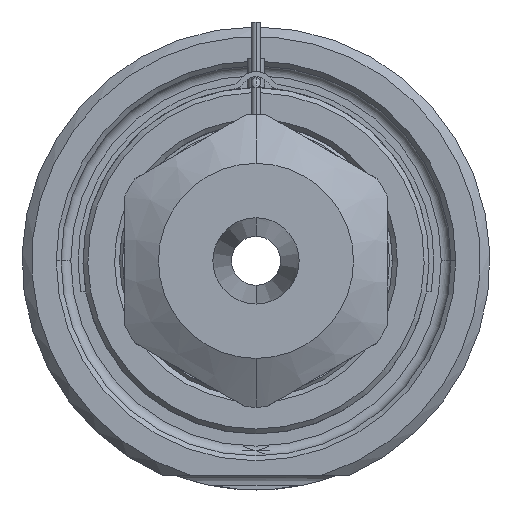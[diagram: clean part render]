
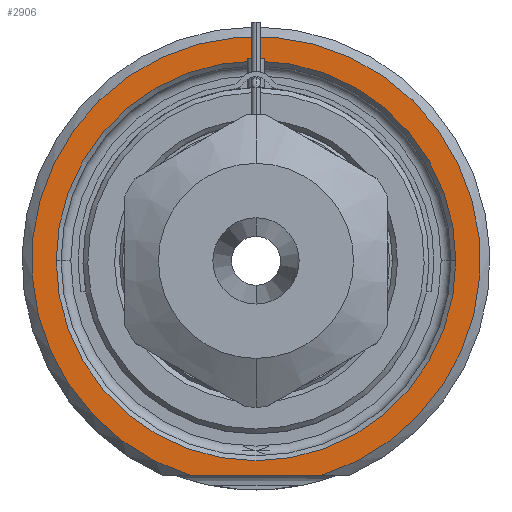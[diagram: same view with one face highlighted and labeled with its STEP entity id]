
A CAD part, front view. The second image highlights one B-rep face of the part: STEP entity #2906.
In plain terms, the highlighted planar face has unit normal (0, -1, 0).
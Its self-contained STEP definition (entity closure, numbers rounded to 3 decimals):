
#1=DIRECTION('',(1.,0.,0.));
#2=VECTOR('',#1,13.416);
#3=CARTESIAN_POINT('',(-6.708,0.,-22.));
#4=LINE('',#3,#2);
#5=CARTESIAN_POINT('',(0.,0.,0.));
#6=DIRECTION('',(0.,1.,0.));
#7=DIRECTION('',(-1.,0.,0.));
#8=AXIS2_PLACEMENT_3D('',#5,#6,#7);
#10=CARTESIAN_POINT('',(0.,0.,0.));
#11=DIRECTION('',(0.,1.,0.));
#12=DIRECTION('',(1.,0.,0.));
#13=AXIS2_PLACEMENT_3D('',#10,#11,#12);
#121=CARTESIAN_POINT('',(0.,0.,0.));
#122=DIRECTION('',(0.,-1.,0.));
#123=DIRECTION('',(0.292,0.,-0.957));
#124=AXIS2_PLACEMENT_3D('',#121,#122,#123);
#2425=CARTESIAN_POINT('',(-20.5,0.,0.));
#2426=CARTESIAN_POINT('',(20.5,0.,0.));
#2427=VERTEX_POINT('',#2425);
#2428=VERTEX_POINT('',#2426);
#2479=CARTESIAN_POINT('',(-6.708,0.,-22.));
#2480=CARTESIAN_POINT('',(6.708,0.,-22.));
#2481=VERTEX_POINT('',#2479);
#2482=VERTEX_POINT('',#2480);
#2889=CARTESIAN_POINT('',(0.,0.,0.));
#2890=DIRECTION('',(0.,-1.,0.));
#2891=DIRECTION('',(1.,0.,0.));
#2892=AXIS2_PLACEMENT_3D('',#2889,#2890,#2891);
#2893=PLANE('',#2892);
#2895=ORIENTED_EDGE('',*,*,#2894,.F.);
#2897=ORIENTED_EDGE('',*,*,#2896,.F.);
#2898=EDGE_LOOP('',(#2895,#2897));
#2899=FACE_OUTER_BOUND('',#2898,.F.);
#2901=ORIENTED_EDGE('',*,*,#2900,.F.);
#2903=ORIENTED_EDGE('',*,*,#2902,.F.);
#2904=EDGE_LOOP('',(#2901,#2903));
#2905=FACE_BOUND('',#2904,.F.);
#2906=ADVANCED_FACE('',(#2899,#2905),#2893,.T.);
#9=CIRCLE('',#8,20.5);
#14=CIRCLE('',#13,20.5);
#125=CIRCLE('',#124,23.);
#2894=EDGE_CURVE('',#2481,#2482,#4,.T.);
#2896=EDGE_CURVE('',#2482,#2481,#125,.T.);
#2900=EDGE_CURVE('',#2427,#2428,#9,.T.);
#2902=EDGE_CURVE('',#2428,#2427,#14,.T.);
